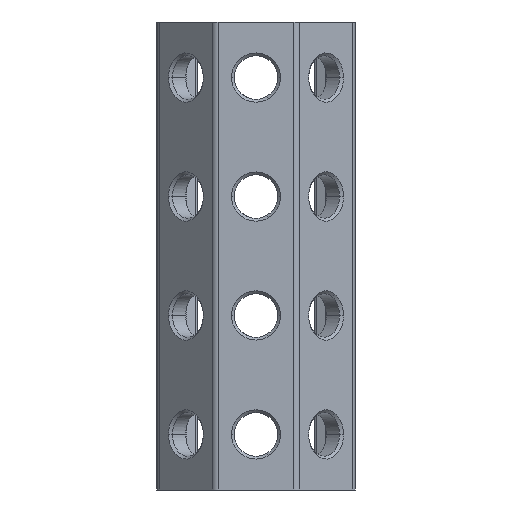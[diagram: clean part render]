
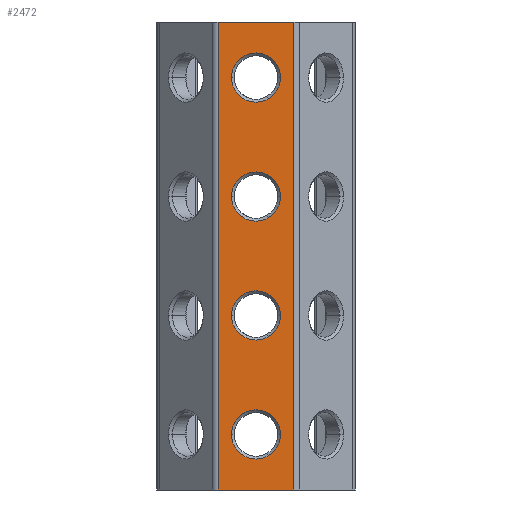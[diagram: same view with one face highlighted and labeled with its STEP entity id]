
A CAD part, front view. The second image highlights one B-rep face of the part: STEP entity #2472.
In plain terms, the highlighted planar face has unit normal (0, -1, 0).
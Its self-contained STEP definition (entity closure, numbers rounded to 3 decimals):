
#505=CARTESIAN_POINT('Vertex',(9.527,-25.,-118.)) ;
#510=CARTESIAN_POINT('Line Origine',(0.,-25.,-118.)) ;
#514=CARTESIAN_POINT('Vertex',(-9.527,-25.,-118.)) ;
#1244=CARTESIAN_POINT('Vertex',(-9.527,-25.,0.)) ;
#1247=CARTESIAN_POINT('Line Origine',(0.,-25.,0.)) ;
#1251=CARTESIAN_POINT('Vertex',(9.527,-25.,0.)) ;
#2340=CARTESIAN_POINT('Line Origine',(9.527,-25.,-4078.)) ;
#2352=CARTESIAN_POINT('Axis2P3D Location',(0.,-25.,-4078.)) ;
#2357=CARTESIAN_POINT('Line Origine',(-9.527,-25.,-59.)) ;
#2368=CARTESIAN_POINT('Axis2P3D Location',(0.,-25.,-14.)) ;
#2372=CARTESIAN_POINT('Vertex',(3.1,-25.,-19.369)) ;
#2374=CARTESIAN_POINT('Vertex',(6.2,-25.,-14.)) ;
#2377=CARTESIAN_POINT('Axis2P3D Location',(0.,-25.,-14.)) ;
#2381=CARTESIAN_POINT('Vertex',(-6.2,-25.,-14.)) ;
#2384=CARTESIAN_POINT('Axis2P3D Location',(0.,-25.,-14.)) ;
#2394=CARTESIAN_POINT('Axis2P3D Location',(0.,-25.,-44.)) ;
#2398=CARTESIAN_POINT('Vertex',(3.1,-25.,-49.369)) ;
#2400=CARTESIAN_POINT('Vertex',(6.2,-25.,-44.)) ;
#2403=CARTESIAN_POINT('Axis2P3D Location',(0.,-25.,-44.)) ;
#2407=CARTESIAN_POINT('Vertex',(-6.2,-25.,-44.)) ;
#2410=CARTESIAN_POINT('Axis2P3D Location',(0.,-25.,-44.)) ;
#2420=CARTESIAN_POINT('Axis2P3D Location',(0.,-25.,-74.)) ;
#2424=CARTESIAN_POINT('Vertex',(3.1,-25.,-79.369)) ;
#2426=CARTESIAN_POINT('Vertex',(6.2,-25.,-74.)) ;
#2429=CARTESIAN_POINT('Axis2P3D Location',(0.,-25.,-74.)) ;
#2433=CARTESIAN_POINT('Vertex',(-6.2,-25.,-74.)) ;
#2436=CARTESIAN_POINT('Axis2P3D Location',(0.,-25.,-74.)) ;
#2446=CARTESIAN_POINT('Axis2P3D Location',(0.,-25.,-104.)) ;
#2450=CARTESIAN_POINT('Vertex',(3.1,-25.,-109.369)) ;
#2452=CARTESIAN_POINT('Vertex',(6.2,-25.,-104.)) ;
#2455=CARTESIAN_POINT('Axis2P3D Location',(0.,-25.,-104.)) ;
#2459=CARTESIAN_POINT('Vertex',(-6.2,-25.,-104.)) ;
#2462=CARTESIAN_POINT('Axis2P3D Location',(0.,-25.,-104.)) ;
#511=DIRECTION('Vector Direction',(1.,0.,0.)) ;
#1248=DIRECTION('Vector Direction',(1.,0.,0.)) ;
#2341=DIRECTION('Vector Direction',(0.,0.,1.)) ;
#2353=DIRECTION('Axis2P3D Direction',(0.,-1.,0.)) ;
#2354=DIRECTION('Axis2P3D XDirection',(1.,0.,0.)) ;
#2358=DIRECTION('Vector Direction',(0.,0.,1.)) ;
#2369=DIRECTION('Axis2P3D Direction',(0.,-1.,0.)) ;
#2378=DIRECTION('Axis2P3D Direction',(0.,-1.,0.)) ;
#2385=DIRECTION('Axis2P3D Direction',(0.,-1.,0.)) ;
#2395=DIRECTION('Axis2P3D Direction',(0.,-1.,0.)) ;
#2404=DIRECTION('Axis2P3D Direction',(0.,-1.,0.)) ;
#2411=DIRECTION('Axis2P3D Direction',(0.,-1.,0.)) ;
#2421=DIRECTION('Axis2P3D Direction',(0.,-1.,0.)) ;
#2430=DIRECTION('Axis2P3D Direction',(0.,-1.,0.)) ;
#2437=DIRECTION('Axis2P3D Direction',(0.,-1.,0.)) ;
#2447=DIRECTION('Axis2P3D Direction',(0.,-1.,0.)) ;
#2456=DIRECTION('Axis2P3D Direction',(0.,-1.,0.)) ;
#2463=DIRECTION('Axis2P3D Direction',(0.,-1.,0.)) ;
#2355=AXIS2_PLACEMENT_3D('Plane Axis2P3D',#2352,#2353,#2354) ;
#2370=AXIS2_PLACEMENT_3D('Circle Axis2P3D',#2368,#2369,$) ;
#2379=AXIS2_PLACEMENT_3D('Circle Axis2P3D',#2377,#2378,$) ;
#2386=AXIS2_PLACEMENT_3D('Circle Axis2P3D',#2384,#2385,$) ;
#2396=AXIS2_PLACEMENT_3D('Circle Axis2P3D',#2394,#2395,$) ;
#2405=AXIS2_PLACEMENT_3D('Circle Axis2P3D',#2403,#2404,$) ;
#2412=AXIS2_PLACEMENT_3D('Circle Axis2P3D',#2410,#2411,$) ;
#2422=AXIS2_PLACEMENT_3D('Circle Axis2P3D',#2420,#2421,$) ;
#2431=AXIS2_PLACEMENT_3D('Circle Axis2P3D',#2429,#2430,$) ;
#2438=AXIS2_PLACEMENT_3D('Circle Axis2P3D',#2436,#2437,$) ;
#2448=AXIS2_PLACEMENT_3D('Circle Axis2P3D',#2446,#2447,$) ;
#2457=AXIS2_PLACEMENT_3D('Circle Axis2P3D',#2455,#2456,$) ;
#2464=AXIS2_PLACEMENT_3D('Circle Axis2P3D',#2462,#2463,$) ;
#2363=ORIENTED_EDGE('',*,*,#2344,.T.) ;
#2364=ORIENTED_EDGE('',*,*,#1253,.F.) ;
#2365=ORIENTED_EDGE('',*,*,#2361,.F.) ;
#2366=ORIENTED_EDGE('',*,*,#516,.T.) ;
#2390=ORIENTED_EDGE('',*,*,#2376,.F.) ;
#2391=ORIENTED_EDGE('',*,*,#2383,.F.) ;
#2392=ORIENTED_EDGE('',*,*,#2388,.F.) ;
#2416=ORIENTED_EDGE('',*,*,#2402,.F.) ;
#2417=ORIENTED_EDGE('',*,*,#2409,.F.) ;
#2418=ORIENTED_EDGE('',*,*,#2414,.F.) ;
#2442=ORIENTED_EDGE('',*,*,#2428,.F.) ;
#2443=ORIENTED_EDGE('',*,*,#2435,.F.) ;
#2444=ORIENTED_EDGE('',*,*,#2440,.F.) ;
#2468=ORIENTED_EDGE('',*,*,#2454,.F.) ;
#2469=ORIENTED_EDGE('',*,*,#2461,.F.) ;
#2470=ORIENTED_EDGE('',*,*,#2466,.F.) ;
#2393=FACE_BOUND('',#2389,.T.) ;
#2419=FACE_BOUND('',#2415,.T.) ;
#2445=FACE_BOUND('',#2441,.T.) ;
#2471=FACE_BOUND('',#2467,.T.) ;
#512=VECTOR('Line Direction',#511,1.) ;
#1249=VECTOR('Line Direction',#1248,1.) ;
#2342=VECTOR('Line Direction',#2341,1.) ;
#2359=VECTOR('Line Direction',#2358,1.) ;
#2472=ADVANCED_FACE('\X2\51F853F0\X0\-\X2\62C94F38\X0\1',(#2367,#2393,#2419,#2445,#2471),#2356,.T.) ;
#2371=CIRCLE('generated circle',#2370,6.2) ;
#2380=CIRCLE('generated circle',#2379,6.2) ;
#2387=CIRCLE('generated circle',#2386,6.2) ;
#2397=CIRCLE('generated circle',#2396,6.2) ;
#2406=CIRCLE('generated circle',#2405,6.2) ;
#2413=CIRCLE('generated circle',#2412,6.2) ;
#2423=CIRCLE('generated circle',#2422,6.2) ;
#2432=CIRCLE('generated circle',#2431,6.2) ;
#2439=CIRCLE('generated circle',#2438,6.2) ;
#2449=CIRCLE('generated circle',#2448,6.2) ;
#2458=CIRCLE('generated circle',#2457,6.2) ;
#2465=CIRCLE('generated circle',#2464,6.2) ;
#516=EDGE_CURVE('',#515,#506,#513,.T.) ;
#1253=EDGE_CURVE('',#1245,#1252,#1250,.T.) ;
#2344=EDGE_CURVE('',#506,#1252,#2343,.T.) ;
#2361=EDGE_CURVE('',#515,#1245,#2360,.T.) ;
#2376=EDGE_CURVE('',#2373,#2375,#2371,.T.) ;
#2383=EDGE_CURVE('',#2382,#2373,#2380,.T.) ;
#2388=EDGE_CURVE('',#2375,#2382,#2387,.T.) ;
#2402=EDGE_CURVE('',#2399,#2401,#2397,.T.) ;
#2409=EDGE_CURVE('',#2408,#2399,#2406,.T.) ;
#2414=EDGE_CURVE('',#2401,#2408,#2413,.T.) ;
#2428=EDGE_CURVE('',#2425,#2427,#2423,.T.) ;
#2435=EDGE_CURVE('',#2434,#2425,#2432,.T.) ;
#2440=EDGE_CURVE('',#2427,#2434,#2439,.T.) ;
#2454=EDGE_CURVE('',#2451,#2453,#2449,.T.) ;
#2461=EDGE_CURVE('',#2460,#2451,#2458,.T.) ;
#2466=EDGE_CURVE('',#2453,#2460,#2465,.T.) ;
#2362=EDGE_LOOP('',(#2363,#2364,#2365,#2366)) ;
#2389=EDGE_LOOP('',(#2390,#2391,#2392)) ;
#2415=EDGE_LOOP('',(#2416,#2417,#2418)) ;
#2441=EDGE_LOOP('',(#2442,#2443,#2444)) ;
#2467=EDGE_LOOP('',(#2468,#2469,#2470)) ;
#2367=FACE_OUTER_BOUND('',#2362,.T.) ;
#513=LINE('Line',#510,#512) ;
#1250=LINE('Line',#1247,#1249) ;
#2343=LINE('Line',#2340,#2342) ;
#2360=LINE('Line',#2357,#2359) ;
#2356=PLANE('',#2355) ;
#506=VERTEX_POINT('',#505) ;
#515=VERTEX_POINT('',#514) ;
#1245=VERTEX_POINT('',#1244) ;
#1252=VERTEX_POINT('',#1251) ;
#2373=VERTEX_POINT('',#2372) ;
#2375=VERTEX_POINT('',#2374) ;
#2382=VERTEX_POINT('',#2381) ;
#2399=VERTEX_POINT('',#2398) ;
#2401=VERTEX_POINT('',#2400) ;
#2408=VERTEX_POINT('',#2407) ;
#2425=VERTEX_POINT('',#2424) ;
#2427=VERTEX_POINT('',#2426) ;
#2434=VERTEX_POINT('',#2433) ;
#2451=VERTEX_POINT('',#2450) ;
#2453=VERTEX_POINT('',#2452) ;
#2460=VERTEX_POINT('',#2459) ;
